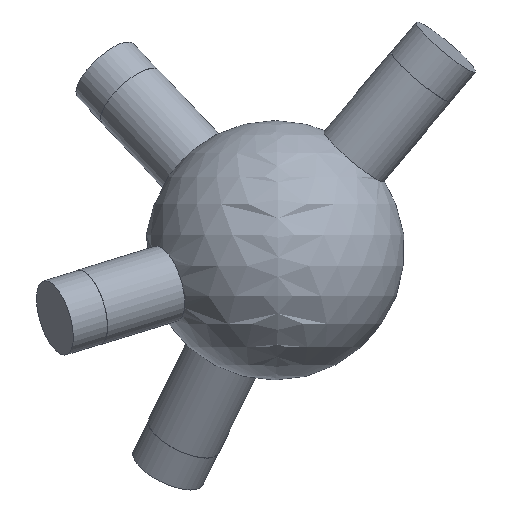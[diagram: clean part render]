
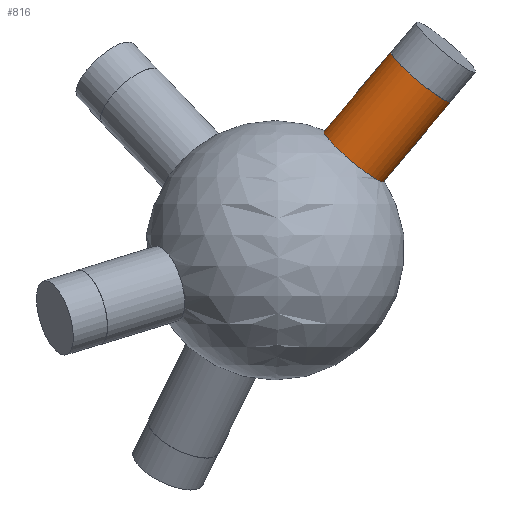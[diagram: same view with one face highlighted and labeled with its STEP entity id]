
A CAD part, left-side view. The second image highlights one B-rep face of the part: STEP entity #816.
In plain terms, the highlighted cylindrical face has radius 6 mm (diameter 12 mm), a full revolution.
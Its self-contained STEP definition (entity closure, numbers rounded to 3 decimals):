
#33 = SPHERICAL_SURFACE('',#34,20.);
#34 = AXIS2_PLACEMENT_3D('',#35,#36,#37);
#35 = CARTESIAN_POINT('',(0.,0.,0.));
#36 = DIRECTION('',(0.,0.,1.));
#37 = DIRECTION('',(1.,0.,-0.));
#490 = EDGE_CURVE('',#491,#491,#493,.T.);
#491 = VERTEX_POINT('',#492);
#492 = CARTESIAN_POINT('',(-2.567,-7.581,
    18.329));
#493 = SURFACE_CURVE('',#494,(#499,#582),.PCURVE_S1.);
#494 = CIRCLE('',#495,6.);
#495 = AXIS2_PLACEMENT_3D('',#496,#497,#498);
#496 = CARTESIAN_POINT('',(-2.567,-12.172,
    14.466));
#497 = DIRECTION('',(-0.135,-0.638,0.758));
#498 = DIRECTION('',(0.,-0.765,-0.644)
  );
#499 = PCURVE('',#33,#500);
#500 = DEFINITIONAL_REPRESENTATION('',(#501),#581);
#501 = B_SPLINE_CURVE_WITH_KNOTS('',8,(#502,#503,#504,#505,#506,#507,
    #508,#509,#510,#511,#512,#513,#514,#515,#516,#517,#518,#519,#520,
    #521,#522,#523,#524,#525,#526,#527,#528,#529,#530,#531,#532,#533,
    #534,#535,#536,#537,#538,#539,#540,#541,#542,#543,#544,#545,#546,
    #547,#548,#549,#550,#551,#552,#553,#554,#555,#556,#557,#558,#559,
    #560,#561,#562,#563,#564,#565,#566,#567,#568,#569,#570,#571,#572,
    #573,#574,#575,#576,#577,#578,#579,#580),.UNSPECIFIED.,.T.,.F.,(9,7,
    7,7,7,7,7,7,7,7,7,9),(3.142,3.534,3.902,
    4.593,5.801,6.707,7.386,
    7.896,8.278,8.851,9.138,
    9.425),.UNSPECIFIED.);
#502 = CARTESIAN_POINT('',(4.386,1.159));
#503 = CARTESIAN_POINT('',(4.35,1.155));
#504 = CARTESIAN_POINT('',(4.316,1.15));
#505 = CARTESIAN_POINT('',(4.283,1.144));
#506 = CARTESIAN_POINT('',(4.253,1.136));
#507 = CARTESIAN_POINT('',(4.224,1.128));
#508 = CARTESIAN_POINT('',(4.198,1.118));
#509 = CARTESIAN_POINT('',(4.174,1.108));
#510 = CARTESIAN_POINT('',(4.133,1.087));
#511 = CARTESIAN_POINT('',(4.115,1.076));
#512 = CARTESIAN_POINT('',(4.099,1.064));
#513 = CARTESIAN_POINT('',(4.085,1.052));
#514 = CARTESIAN_POINT('',(4.073,1.04));
#515 = CARTESIAN_POINT('',(4.062,1.027));
#516 = CARTESIAN_POINT('',(4.054,1.014));
#517 = CARTESIAN_POINT('',(4.033,0.976));
#518 = CARTESIAN_POINT('',(4.026,0.95));
#519 = CARTESIAN_POINT('',(4.023,0.924));
#520 = CARTESIAN_POINT('',(4.024,0.898));
#521 = CARTESIAN_POINT('',(4.029,0.872));
#522 = CARTESIAN_POINT('',(4.037,0.847));
#523 = CARTESIAN_POINT('',(4.048,0.822));
#524 = CARTESIAN_POINT('',(4.084,0.755));
#525 = CARTESIAN_POINT('',(4.115,0.715));
#526 = CARTESIAN_POINT('',(4.152,0.679));
#527 = CARTESIAN_POINT('',(4.194,0.646));
#528 = CARTESIAN_POINT('',(4.24,0.619));
#529 = CARTESIAN_POINT('',(4.288,0.596));
#530 = CARTESIAN_POINT('',(4.339,0.579));
#531 = CARTESIAN_POINT('',(4.43,0.56));
#532 = CARTESIAN_POINT('',(4.47,0.554));
#533 = CARTESIAN_POINT('',(4.51,0.553));
#534 = CARTESIAN_POINT('',(4.55,0.554));
#535 = CARTESIAN_POINT('',(4.59,0.559));
#536 = CARTESIAN_POINT('',(4.63,0.568));
#537 = CARTESIAN_POINT('',(4.668,0.58));
#538 = CARTESIAN_POINT('',(4.733,0.605));
#539 = CARTESIAN_POINT('',(4.76,0.618));
#540 = CARTESIAN_POINT('',(4.786,0.632));
#541 = CARTESIAN_POINT('',(4.811,0.648));
#542 = CARTESIAN_POINT('',(4.834,0.666));
#543 = CARTESIAN_POINT('',(4.857,0.685));
#544 = CARTESIAN_POINT('',(4.878,0.705));
#545 = CARTESIAN_POINT('',(4.911,0.742));
#546 = CARTESIAN_POINT('',(4.924,0.758));
#547 = CARTESIAN_POINT('',(4.936,0.775));
#548 = CARTESIAN_POINT('',(4.947,0.793));
#549 = CARTESIAN_POINT('',(4.957,0.811));
#550 = CARTESIAN_POINT('',(4.965,0.829));
#551 = CARTESIAN_POINT('',(4.971,0.848));
#552 = CARTESIAN_POINT('',(4.98,0.881));
#553 = CARTESIAN_POINT('',(4.982,0.895));
#554 = CARTESIAN_POINT('',(4.984,0.909));
#555 = CARTESIAN_POINT('',(4.984,0.924));
#556 = CARTESIAN_POINT('',(4.983,0.938));
#557 = CARTESIAN_POINT('',(4.981,0.953));
#558 = CARTESIAN_POINT('',(4.977,0.967));
#559 = CARTESIAN_POINT('',(4.964,1.002));
#560 = CARTESIAN_POINT('',(4.952,1.022));
#561 = CARTESIAN_POINT('',(4.937,1.043));
#562 = CARTESIAN_POINT('',(4.917,1.062));
#563 = CARTESIAN_POINT('',(4.893,1.08));
#564 = CARTESIAN_POINT('',(4.863,1.097));
#565 = CARTESIAN_POINT('',(4.828,1.112));
#566 = CARTESIAN_POINT('',(4.769,1.132));
#567 = CARTESIAN_POINT('',(4.748,1.138));
#568 = CARTESIAN_POINT('',(4.726,1.143));
#569 = CARTESIAN_POINT('',(4.703,1.148));
#570 = CARTESIAN_POINT('',(4.678,1.152));
#571 = CARTESIAN_POINT('',(4.653,1.156));
#572 = CARTESIAN_POINT('',(4.627,1.159));
#573 = CARTESIAN_POINT('',(4.575,1.163));
#574 = CARTESIAN_POINT('',(4.548,1.165));
#575 = CARTESIAN_POINT('',(4.52,1.166));
#576 = CARTESIAN_POINT('',(4.493,1.166));
#577 = CARTESIAN_POINT('',(4.466,1.165));
#578 = CARTESIAN_POINT('',(4.438,1.164));
#579 = CARTESIAN_POINT('',(4.412,1.162));
#580 = CARTESIAN_POINT('',(4.386,1.159));
#581 = ( GEOMETRIC_REPRESENTATION_CONTEXT(2) 
PARAMETRIC_REPRESENTATION_CONTEXT() REPRESENTATION_CONTEXT('2D SPACE',''
  ) );
#582 = PCURVE('',#583,#588);
#583 = CYLINDRICAL_SURFACE('',#584,6.);
#584 = AXIS2_PLACEMENT_3D('',#585,#586,#587);
#585 = CARTESIAN_POINT('',(0.,0.,0.));
#586 = DIRECTION('',(-0.135,-0.638,0.758));
#587 = DIRECTION('',(0.,0.765,0.644)
  );
#588 = DEFINITIONAL_REPRESENTATION('',(#589),#593);
#589 = LINE('',#590,#591);
#590 = CARTESIAN_POINT('',(-3.142,19.079));
#591 = VECTOR('',#592,1.);
#592 = DIRECTION('',(1.,0.));
#593 = ( GEOMETRIC_REPRESENTATION_CONTEXT(2) 
PARAMETRIC_REPRESENTATION_CONTEXT() REPRESENTATION_CONTEXT('2D SPACE',''
  ) );
#816 = ADVANCED_FACE('',(#817),#583,.T.);
#817 = FACE_BOUND('',#818,.T.);
#818 = EDGE_LOOP('',(#819,#842,#869,#870));
#819 = ORIENTED_EDGE('',*,*,#820,.T.);
#820 = EDGE_CURVE('',#491,#821,#823,.T.);
#821 = VERTEX_POINT('',#822);
#822 = CARTESIAN_POINT('',(-4.748,-17.925,
    30.621));
#823 = SEAM_CURVE('',#824,(#828,#835),.PCURVE_S1.);
#824 = LINE('',#825,#826);
#825 = CARTESIAN_POINT('',(0.,4.591,
    3.863));
#826 = VECTOR('',#827,1.);
#827 = DIRECTION('',(-0.135,-0.638,0.758));
#828 = PCURVE('',#583,#829);
#829 = DEFINITIONAL_REPRESENTATION('',(#830),#834);
#830 = LINE('',#831,#832);
#831 = CARTESIAN_POINT('',(6.283,-0.));
#832 = VECTOR('',#833,1.);
#833 = DIRECTION('',(0.,1.));
#834 = ( GEOMETRIC_REPRESENTATION_CONTEXT(2) 
PARAMETRIC_REPRESENTATION_CONTEXT() REPRESENTATION_CONTEXT('2D SPACE',''
  ) );
#835 = PCURVE('',#583,#836);
#836 = DEFINITIONAL_REPRESENTATION('',(#837),#841);
#837 = LINE('',#838,#839);
#838 = CARTESIAN_POINT('',(0.,-0.));
#839 = VECTOR('',#840,1.);
#840 = DIRECTION('',(0.,1.));
#841 = ( GEOMETRIC_REPRESENTATION_CONTEXT(2) 
PARAMETRIC_REPRESENTATION_CONTEXT() REPRESENTATION_CONTEXT('2D SPACE',''
  ) );
#842 = ORIENTED_EDGE('',*,*,#843,.F.);
#843 = EDGE_CURVE('',#821,#821,#844,.T.);
#844 = SURFACE_CURVE('',#845,(#850,#857),.PCURVE_S1.);
#845 = CIRCLE('',#846,6.);
#846 = AXIS2_PLACEMENT_3D('',#847,#848,#849);
#847 = CARTESIAN_POINT('',(-4.748,-22.515,
    26.758));
#848 = DIRECTION('',(-0.135,-0.638,0.758));
#849 = DIRECTION('',(0.,0.765,0.644));
#850 = PCURVE('',#583,#851);
#851 = DEFINITIONAL_REPRESENTATION('',(#852),#856);
#852 = LINE('',#853,#854);
#853 = CARTESIAN_POINT('',(0.,35.291));
#854 = VECTOR('',#855,1.);
#855 = DIRECTION('',(1.,0.));
#856 = ( GEOMETRIC_REPRESENTATION_CONTEXT(2) 
PARAMETRIC_REPRESENTATION_CONTEXT() REPRESENTATION_CONTEXT('2D SPACE',''
  ) );
#857 = PCURVE('',#858,#863);
#858 = PLANE('',#859);
#859 = AXIS2_PLACEMENT_3D('',#860,#861,#862);
#860 = CARTESIAN_POINT('',(-4.748,-22.515,
    26.758));
#861 = DIRECTION('',(-0.135,-0.638,0.758));
#862 = DIRECTION('',(0.,0.765,0.644)
  );
#863 = DEFINITIONAL_REPRESENTATION('',(#864),#868);
#864 = CIRCLE('',#865,6.);
#865 = AXIS2_PLACEMENT_2D('',#866,#867);
#866 = CARTESIAN_POINT('',(0.,0.));
#867 = DIRECTION('',(1.,0.));
#868 = ( GEOMETRIC_REPRESENTATION_CONTEXT(2) 
PARAMETRIC_REPRESENTATION_CONTEXT() REPRESENTATION_CONTEXT('2D SPACE',''
  ) );
#869 = ORIENTED_EDGE('',*,*,#820,.F.);
#870 = ORIENTED_EDGE('',*,*,#490,.T.);
